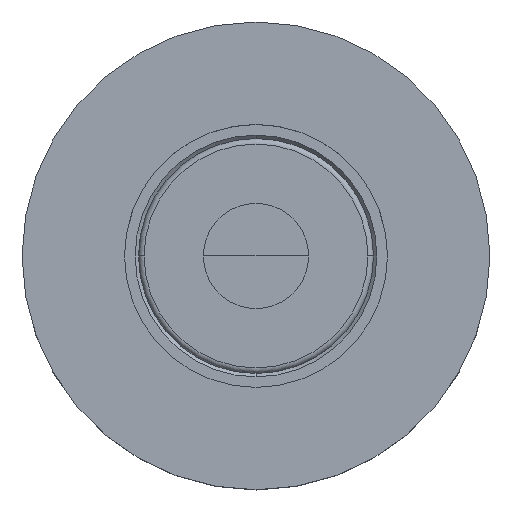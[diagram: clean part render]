
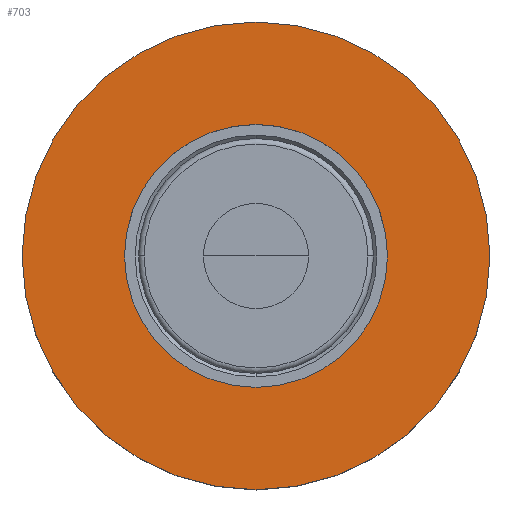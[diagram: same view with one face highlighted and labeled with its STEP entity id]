
A CAD part, top view. The second image highlights one B-rep face of the part: STEP entity #703.
In plain terms, the highlighted planar face has unit normal (0, 0, 1) as drawn and (0, 1, 0) by its records, which use the part's own axes.
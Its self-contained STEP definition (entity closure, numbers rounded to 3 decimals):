
#466=CARTESIAN_POINT('',(0.,2.1,0.));
#467=DIRECTION('',(0.,1.,0.));
#468=DIRECTION('',(0.,0.,-1.));
#469=AXIS2_PLACEMENT_3D('',#466,#467,#468);
#471=CARTESIAN_POINT('',(0.,2.1,0.));
#472=DIRECTION('',(0.,1.,0.));
#473=DIRECTION('',(0.,0.,1.));
#474=AXIS2_PLACEMENT_3D('',#471,#472,#473);
#476=CARTESIAN_POINT('',(0.,2.1,0.));
#477=DIRECTION('',(0.,1.,0.));
#478=DIRECTION('',(0.,0.,-1.));
#479=AXIS2_PLACEMENT_3D('',#476,#477,#478);
#481=CARTESIAN_POINT('',(0.,2.1,0.));
#482=DIRECTION('',(0.,1.,0.));
#483=DIRECTION('',(0.,0.,1.));
#484=AXIS2_PLACEMENT_3D('',#481,#482,#483);
#558=CARTESIAN_POINT('',(0.,2.1,-2.09));
#559=CARTESIAN_POINT('',(0.,2.1,2.09));
#560=VERTEX_POINT('',#558);
#561=VERTEX_POINT('',#559);
#586=CARTESIAN_POINT('',(0.,2.1,-1.175));
#587=CARTESIAN_POINT('',(0.,2.1,1.175));
#588=VERTEX_POINT('',#586);
#589=VERTEX_POINT('',#587);
#688=CARTESIAN_POINT('',(0.,2.1,0.));
#689=DIRECTION('',(0.,1.,0.));
#690=DIRECTION('',(0.,0.,-1.));
#691=AXIS2_PLACEMENT_3D('',#688,#689,#690);
#692=PLANE('',#691);
#693=ORIENTED_EDGE('',*,*,#668,.F.);
#694=ORIENTED_EDGE('',*,*,#682,.F.);
#695=EDGE_LOOP('',(#693,#694));
#696=FACE_OUTER_BOUND('',#695,.F.);
#698=ORIENTED_EDGE('',*,*,#697,.T.);
#700=ORIENTED_EDGE('',*,*,#699,.T.);
#701=EDGE_LOOP('',(#698,#700));
#702=FACE_BOUND('',#701,.F.);
#703=ADVANCED_FACE('',(#696,#702),#692,.T.);
#470=CIRCLE('',#469,2.09);
#475=CIRCLE('',#474,2.09);
#480=CIRCLE('',#479,1.175);
#485=CIRCLE('',#484,1.175);
#668=EDGE_CURVE('',#560,#561,#470,.T.);
#682=EDGE_CURVE('',#561,#560,#475,.T.);
#697=EDGE_CURVE('',#588,#589,#480,.T.);
#699=EDGE_CURVE('',#589,#588,#485,.T.);
